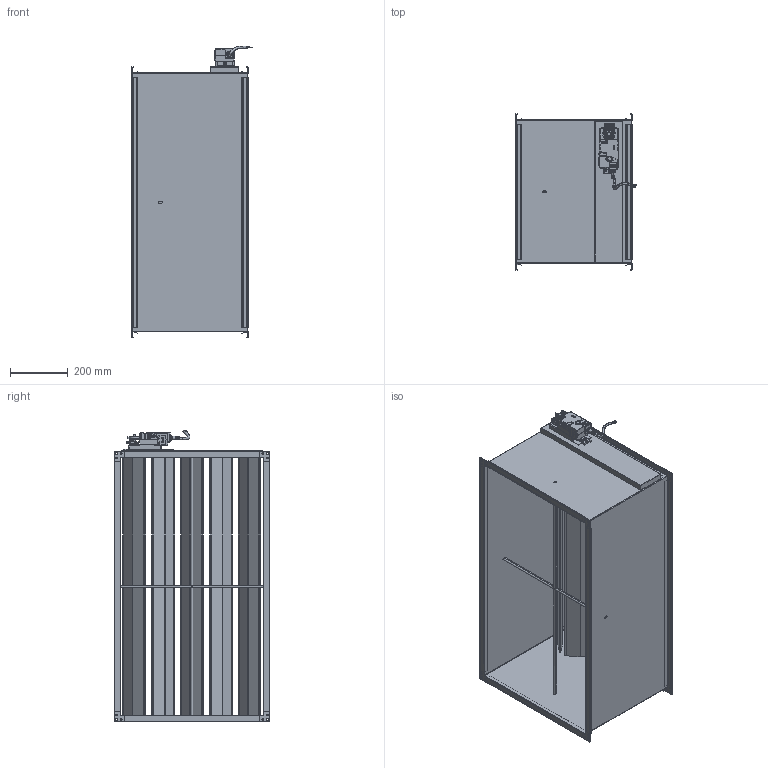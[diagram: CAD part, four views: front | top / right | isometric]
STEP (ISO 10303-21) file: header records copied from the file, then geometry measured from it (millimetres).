
FILE_DESCRIPTION (( 'STEP AP214' ), '1' );
FILE_NAME ('VAV-S900500.STEP', '2025-05-08T12:16:28', ( '' ), ( '' ), 'SwSTEP 2.0', 'SolidWorks 2025', '' );
FILE_SCHEMA (( 'AUTOMOTIVE_DESIGN' ));
Length unit declared in the file: millimetre
Products named in the file (1): VAV-S900500
Bounding box: 419.79 x 541 x 1013.68 mm (x, y, z)
Surface area: 4436593.9 mm2 (no closed solid volume)
Topology: 0 solids, 48 shells, 2094 faces, 5469 edges, 3482 vertices
Faces by surface type: plane 1539, cylinder 502, bspline 24, sphere 18, cone 10, torus 1
Full cylindrical faces by diameter (mm): 1 x4, 6 x15, 6.057 x2, 8 x1, 9 x8, 11 x1, 20 x1, 21 x2
Entity records: 91984 total; most frequent: CARTESIAN_POINT 41638, ORIENTED_EDGE 10729, DIRECTION 6908, EDGE_CURVE 5388, VERTEX_POINT 3457, B_SPLINE_CURVE_WITH_KNOTS 3170, AXIS2_PLACEMENT_3D 2631, EDGE_LOOP 2300
